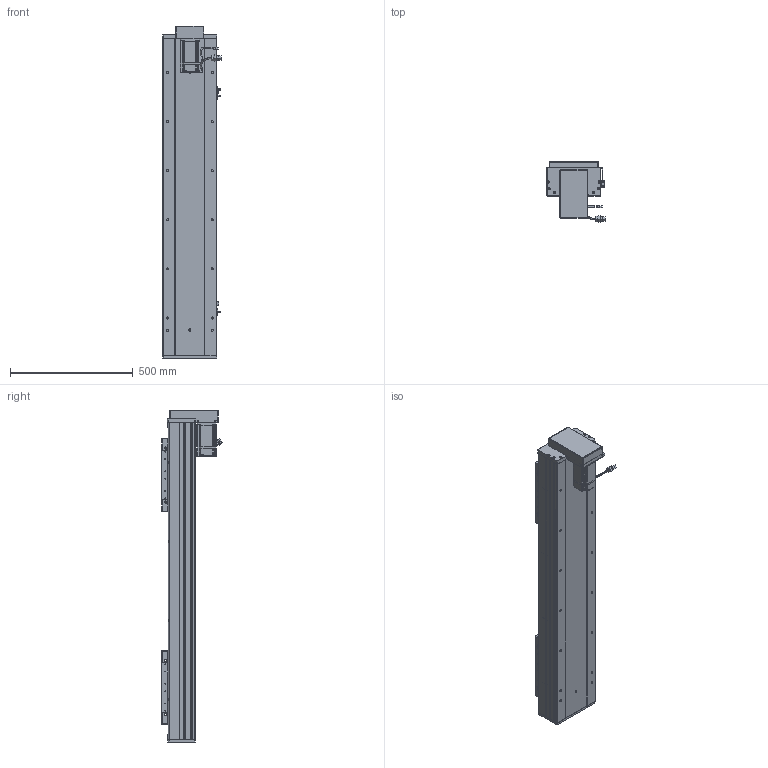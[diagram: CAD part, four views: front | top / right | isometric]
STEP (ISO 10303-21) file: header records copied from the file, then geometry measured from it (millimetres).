
FILE_DESCRIPTION (( 'STEP AP203' ), '1' );
FILE_NAME ('RY220F-L2525-800-BK-邧嶺.SLDASM_850.step', '2022-08-06T08:07:38', ( '' ), ( '' ), 'SwSTEP 2.0', 'SolidWorks 2016', '' );
FILE_SCHEMA (( 'CONFIG_CONTROL_DESIGN' ));
Length unit declared in the file: millimetre
Products named in the file (15): RY220F-672覜茼んえ; 滅袉蝶18-24; RY220F-詩湍揤踡輸; RY220狟殏萇儂欶; 怢湛750W_ECMA-CX0807ES; RY220F蛌殏菁釱-800-邧嶺_850; RY220狟殏萇儂假蚾啣; RY220F-滅鳥奻裔; RY220F-祥凄詩湍-蛌殏-800_850; 覜茼ん672; RY220F綴裔啣; 侐源滅袉蝶; RY220F-蛌殏奻裔啣-800_850; RY220F臏賑釱25-32佪裝; RY220F-L2525-800-BK-邧嶺.SLDASM_850
Assembly tree (24 placements, depth 2):
  RY220F-L2525-800-BK-邧嶺.SLDASM_850
    RY220F蛌殏菁釱-800-邧嶺_850
    RY220F-蛌殏奻裔啣-800_850  x2
    怢湛750W_ECMA-CX0807ES
    RY220F臏賑釱25-32佪裝  x2
    RY220F-滅鳥奻裔  x2
    滅袉蝶18-24  x3
    RY220F綴裔啣
    RY220F-祥凄詩湍-蛌殏-800_850
    RY220F-詩湍揤踡輸  x2
    覜茼ん672  x3
    RY220F-672覜茼んえ  x2
    侐源滅袉蝶  x2
    RY220狟殏萇儂假蚾啣
    RY220狟殏萇儂欶
Bounding box: 237.27 x 247.24 x 1353 mm (x, y, z)
Volume: 13604269 mm3; surface area: 3490964.1 mm2
Topology: 25 solids, 25 shells, 2755 faces, 7490 edges, 4637 vertices
Faces by surface type: cylinder 1222, plane 1062, cone 400, bspline 45, sphere 16, torus 10
Entity records: 68245 total; most frequent: CARTESIAN_POINT 18591, ORIENTED_EDGE 10050, DIRECTION 9725, EDGE_CURVE 5025, AXIS2_PLACEMENT_3D 3438, VERTEX_POINT 3253, LINE 2849, VECTOR 2849
